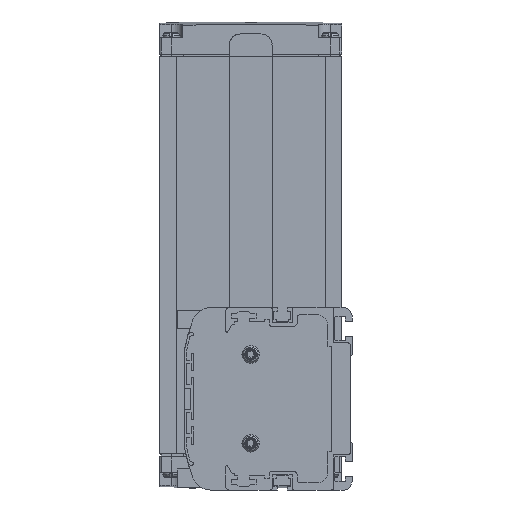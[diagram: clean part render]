
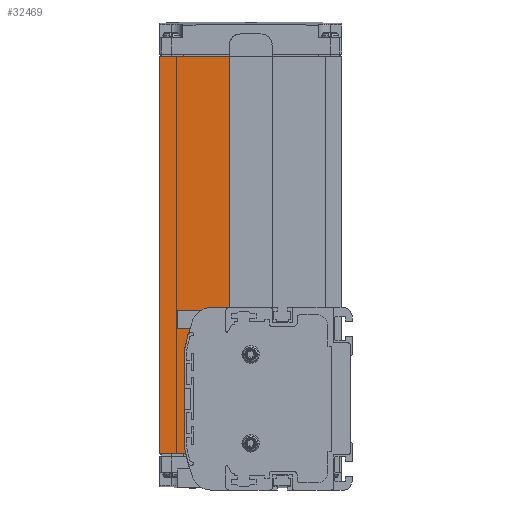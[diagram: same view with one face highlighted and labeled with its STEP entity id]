
A CAD part, left-side view. The second image highlights one B-rep face of the part: STEP entity #32469.
In plain terms, the highlighted planar face has unit normal (-1, 0, 0).
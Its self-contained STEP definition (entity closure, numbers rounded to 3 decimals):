
#8076=DIRECTION('',(0.,-1.,0.));
#8077=VECTOR('',#8076,11.203);
#8078=CARTESIAN_POINT('',(3.,82.5,-23.5));
#8079=LINE('',#8078,#8077);
#8080=DIRECTION('',(0.,0.,-1.));
#8081=VECTOR('',#8080,170.);
#8082=CARTESIAN_POINT('',(3.,82.5,146.5));
#8083=LINE('',#8082,#8081);
#8084=DIRECTION('',(0.,1.,0.));
#8085=VECTOR('',#8084,29.9);
#8086=CARTESIAN_POINT('',(3.,52.6,146.5));
#8087=LINE('',#8086,#8085);
#8088=DIRECTION('',(0.,-1.,0.));
#8089=VECTOR('',#8088,8.155);
#8090=CARTESIAN_POINT('',(3.,60.755,39.));
#8091=LINE('',#8090,#8089);
#11095=CARTESIAN_POINT('',(3.,-6.765,-6.));
#11096=DIRECTION('',(1.,0.,0.));
#11097=DIRECTION('',(0.,0.976,-0.219));
#11098=AXIS2_PLACEMENT_3D('',#11095,#11096,#11097);
#11104=CARTESIAN_POINT('',(3.,70.,-19.823));
#11105=DIRECTION('',(-1.,0.,0.));
#11106=DIRECTION('',(0.,1.,0.));
#11107=AXIS2_PLACEMENT_3D('',#11104,#11105,#11106);
#11117=DIRECTION('',(0.,0.,1.));
#11118=VECTOR('',#11117,39.645);
#11119=CARTESIAN_POINT('',(3.,72.,-19.823));
#11120=LINE('',#11119,#11118);
#11125=CARTESIAN_POINT('',(3.,70.,19.823));
#11126=DIRECTION('',(1.,0.,0.));
#11127=DIRECTION('',(0.,1.,0.));
#11128=AXIS2_PLACEMENT_3D('',#11125,#11126,#11127);
#11134=CARTESIAN_POINT('',(3.,-6.765,6.));
#11135=DIRECTION('',(1.,0.,0.));
#11136=DIRECTION('',(0.,0.984,0.177));
#11137=AXIS2_PLACEMENT_3D('',#11134,#11135,#11136);
#11139=CARTESIAN_POINT('',(3.,-6.765,6.));
#11140=DIRECTION('',(1.,0.,0.));
#11141=DIRECTION('',(0.,0.963,0.269));
#11142=AXIS2_PLACEMENT_3D('',#11139,#11140,#11141);
#11148=CARTESIAN_POINT('',(3.,60.755,31.));
#11149=DIRECTION('',(-1.,0.,0.));
#11150=DIRECTION('',(0.,0.,1.));
#11151=AXIS2_PLACEMENT_3D('',#11148,#11149,#11150);
#11542=DIRECTION('',(0.,-1.,0.));
#11543=VECTOR('',#11542,0.209);
#11544=CARTESIAN_POINT('',(3.,70.5,27.5));
#11545=LINE('',#11544,#11543);
#11566=DIRECTION('',(0.,0.,1.));
#11567=VECTOR('',#11566,0.762);
#11568=CARTESIAN_POINT('',(3.,70.5,26.738));
#11569=LINE('',#11568,#11567);
#11574=DIRECTION('',(0.,0.,1.));
#11575=VECTOR('',#11574,107.5);
#11576=CARTESIAN_POINT('',(3.,52.6,39.));
#11577=LINE('',#11576,#11575);
#17463=CARTESIAN_POINT('',(3.,82.5,-23.5));
#17465=VERTEX_POINT('',#17463);
#17560=CARTESIAN_POINT('',(3.,52.6,146.5));
#17561=VERTEX_POINT('',#17560);
#17562=CARTESIAN_POINT('',(3.,82.5,146.5));
#17563=VERTEX_POINT('',#17562);
#17596=CARTESIAN_POINT('',(3.,70.5,27.5));
#17597=VERTEX_POINT('',#17596);
#21547=CARTESIAN_POINT('',(3.,60.755,39.));
#21548=CARTESIAN_POINT('',(3.,52.6,39.));
#21549=VERTEX_POINT('',#21547);
#21550=VERTEX_POINT('',#21548);
#21551=CARTESIAN_POINT('',(3.,71.297,-23.5));
#21553=VERTEX_POINT('',#21551);
#21563=CARTESIAN_POINT('',(3.,70.5,26.738));
#21564=VERTEX_POINT('',#21563);
#21568=CARTESIAN_POINT('',(3.,70.291,27.5));
#21570=VERTEX_POINT('',#21568);
#21577=CARTESIAN_POINT('',(3.,72.,19.823));
#21578=CARTESIAN_POINT('',(3.,71.968,20.177));
#21579=VERTEX_POINT('',#21577);
#21580=VERTEX_POINT('',#21578);
#21581=CARTESIAN_POINT('',(3.,68.257,33.778));
#21582=VERTEX_POINT('',#21581);
#21595=CARTESIAN_POINT('',(3.,71.968,-20.177));
#21596=VERTEX_POINT('',#21595);
#21597=CARTESIAN_POINT('',(3.,72.,-19.823));
#21598=VERTEX_POINT('',#21597);
#32437=CARTESIAN_POINT('',(3.,67.55,61.5));
#32438=DIRECTION('',(1.,0.,0.));
#32439=DIRECTION('',(0.,-1.,0.));
#32440=AXIS2_PLACEMENT_3D('',#32437,#32438,#32439);
#32441=PLANE('',#32440);
#32443=ORIENTED_EDGE('',*,*,#32442,.F.);
#32445=ORIENTED_EDGE('',*,*,#32444,.T.);
#32447=ORIENTED_EDGE('',*,*,#32446,.F.);
#32449=ORIENTED_EDGE('',*,*,#32448,.F.);
#32451=ORIENTED_EDGE('',*,*,#32450,.F.);
#32453=ORIENTED_EDGE('',*,*,#32452,.F.);
#32455=ORIENTED_EDGE('',*,*,#32454,.F.);
#32457=ORIENTED_EDGE('',*,*,#32456,.F.);
#32459=ORIENTED_EDGE('',*,*,#32458,.T.);
#32461=ORIENTED_EDGE('',*,*,#32460,.F.);
#32462=ORIENTED_EDGE('',*,*,#27195,.F.);
#32463=ORIENTED_EDGE('',*,*,#32425,.F.);
#32464=ORIENTED_EDGE('',*,*,#30317,.F.);
#32466=ORIENTED_EDGE('',*,*,#32465,.F.);
#32467=EDGE_LOOP('',(#32443,#32445,#32447,#32449,#32451,#32453,#32455,#32457,
#32459,#32461,#32462,#32463,#32464,#32466));
#32468=FACE_OUTER_BOUND('',#32467,.F.);
#32469=ADVANCED_FACE('',(#32468),#32441,.F.);
#11099=CIRCLE('',#11098,80.);
#11108=CIRCLE('',#11107,2.);
#11129=CIRCLE('',#11128,2.);
#11138=CIRCLE('',#11137,80.);
#11143=CIRCLE('',#11142,80.);
#11152=CIRCLE('',#11151,8.);
#27195=EDGE_CURVE('',#17465,#21553,#8079,.T.);
#30317=EDGE_CURVE('',#17561,#17563,#8087,.T.);
#32425=EDGE_CURVE('',#17563,#17465,#8083,.T.);
#32442=EDGE_CURVE('',#21549,#21550,#8091,.T.);
#32444=EDGE_CURVE('',#21549,#21582,#11152,.T.);
#32446=EDGE_CURVE('',#21570,#21582,#11143,.T.);
#32448=EDGE_CURVE('',#17597,#21570,#11545,.T.);
#32450=EDGE_CURVE('',#21564,#17597,#11569,.T.);
#32452=EDGE_CURVE('',#21580,#21564,#11138,.T.);
#32454=EDGE_CURVE('',#21579,#21580,#11129,.T.);
#32456=EDGE_CURVE('',#21598,#21579,#11120,.T.);
#32458=EDGE_CURVE('',#21598,#21596,#11108,.T.);
#32460=EDGE_CURVE('',#21553,#21596,#11099,.T.);
#32465=EDGE_CURVE('',#21550,#17561,#11577,.T.);
